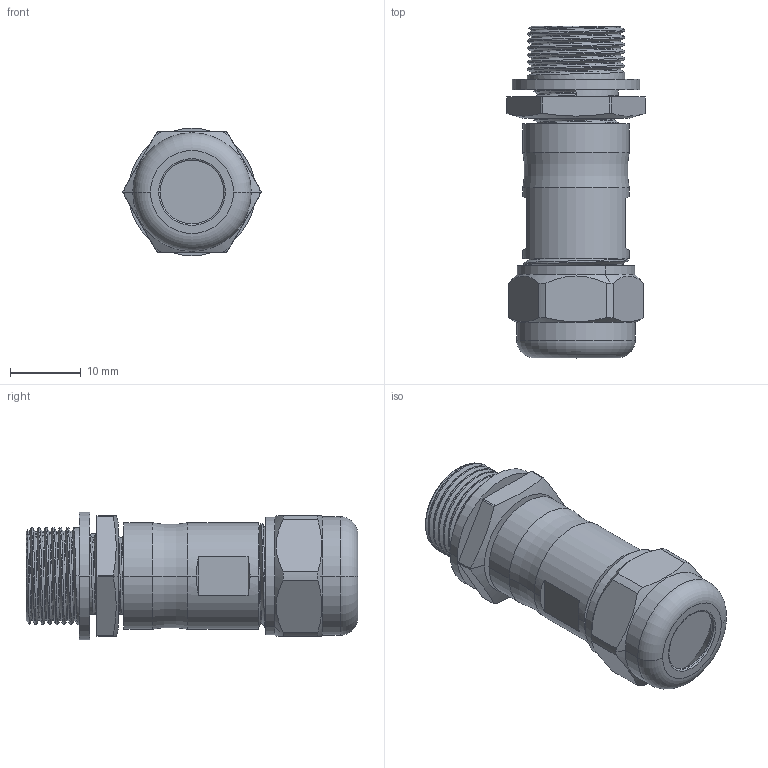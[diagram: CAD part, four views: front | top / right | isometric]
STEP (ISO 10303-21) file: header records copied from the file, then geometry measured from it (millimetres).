
FILE_DESCRIPTION((''),'2;1');
FILE_NAME('ST1211-P3','2018-07-06T',('Administrator'),(''),'PRO/ENGINEER BY PARAMETRIC TECHNOLOGY CORPORATION, 2015240','PRO/ENGINEER BY PARAMETRIC TECHNOLOGY CORPORATION, 2015240','');
FILE_SCHEMA(('CONFIG_CONTROL_DESIGN'));
Length unit declared in the file: millimetre
Products named in the file (1): ST1211-P3
Bounding box: 19.5 x 46.8 x 18 mm (x, y, z)
Volume: 7746 mm3; surface area: 4341.6 mm2
Topology: 1 solids, 1 shells, 164 faces, 446 edges, 285 vertices
Faces by surface type: cylinder 58, plane 43, bspline 36, cone 15, torus 6, sphere 6
Entity records: 10163 total; most frequent: CARTESIAN_POINT 6334, ORIENTED_EDGE 880, DIRECTION 651, EDGE_CURVE 440, VERTEX_POINT 285, AXIS2_PLACEMENT_3D 250, EDGE_LOOP 179, B_SPLINE_CURVE_WITH_KNOTS 167
